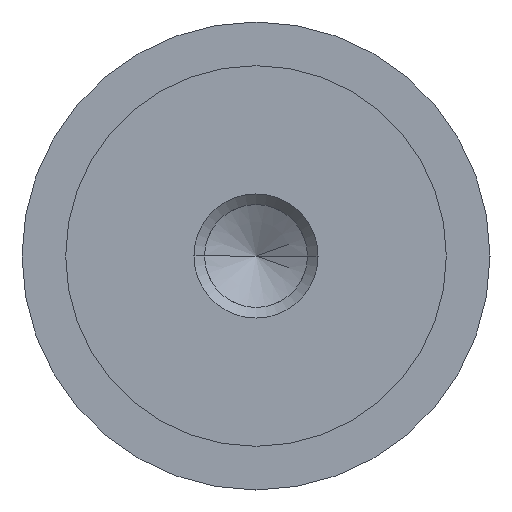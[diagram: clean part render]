
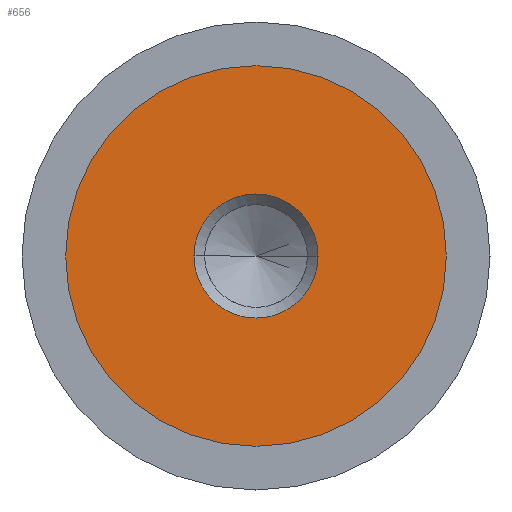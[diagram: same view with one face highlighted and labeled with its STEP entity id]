
A CAD part, left-side view. The second image highlights one B-rep face of the part: STEP entity #656.
In plain terms, the highlighted planar face has unit normal (-1, 0, 0).
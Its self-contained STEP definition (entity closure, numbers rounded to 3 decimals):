
#11 = DIRECTION ( 'NONE',  ( -1., 0., 0. ) ) ;
#87 = EDGE_CURVE ( 'NONE', #313, #139, #726, .T. ) ;
#91 = DIRECTION ( 'NONE',  ( 0., 0., -1. ) ) ;
#122 = DIRECTION ( 'NONE',  ( 0., 0., -1. ) ) ;
#127 = EDGE_LOOP ( 'NONE', ( #769, #382 ) ) ;
#130 = VERTEX_POINT ( 'NONE', #479 ) ;
#139 = VERTEX_POINT ( 'NONE', #592 ) ;
#149 = AXIS2_PLACEMENT_3D ( 'NONE', #343, #688, #750 ) ;
#179 = EDGE_LOOP ( 'NONE', ( #757, #554 ) ) ;
#188 = AXIS2_PLACEMENT_3D ( 'NONE', #559, #11, #325 ) ;
#260 = EDGE_CURVE ( 'NONE', #130, #333, #598, .T. ) ;
#297 = EDGE_CURVE ( 'NONE', #139, #313, #607, .T. ) ;
#313 = VERTEX_POINT ( 'NONE', #389 ) ;
#325 = DIRECTION ( 'NONE',  ( 0., 0., 1. ) ) ;
#333 = VERTEX_POINT ( 'NONE', #698 ) ;
#343 = CARTESIAN_POINT ( 'NONE',  ( -7.49, 6.1, 0. ) ) ;
#375 = CARTESIAN_POINT ( 'NONE',  ( -7.49, 0., 0. ) ) ;
#382 = ORIENTED_EDGE ( 'NONE', *, *, #87, .T. ) ;
#389 = CARTESIAN_POINT ( 'NONE',  ( -7.49, 1.99, 0. ) ) ;
#395 = AXIS2_PLACEMENT_3D ( 'NONE', #404, #696, #91 ) ;
#397 = CIRCLE ( 'NONE', #188, 6.1 ) ;
#404 = CARTESIAN_POINT ( 'NONE',  ( -7.49, 0., 0. ) ) ;
#433 = CARTESIAN_POINT ( 'NONE',  ( -7.49, 0., 0. ) ) ;
#452 = PLANE ( 'NONE',  #149 ) ;
#463 = FACE_OUTER_BOUND ( 'NONE', #179, .T. ) ;
#479 = CARTESIAN_POINT ( 'NONE',  ( -7.49, 0., -6.1 ) ) ;
#482 = AXIS2_PLACEMENT_3D ( 'NONE', #375, #657, #653 ) ;
#554 = ORIENTED_EDGE ( 'NONE', *, *, #260, .T. ) ;
#559 = CARTESIAN_POINT ( 'NONE',  ( -7.49, 0., 0. ) ) ;
#592 = CARTESIAN_POINT ( 'NONE',  ( -7.49, -1.99, 0. ) ) ;
#598 = CIRCLE ( 'NONE', #482, 6.1 ) ;
#607 = CIRCLE ( 'NONE', #659, 1.99 ) ;
#616 = EDGE_CURVE ( 'NONE', #333, #130, #397, .T. ) ;
#653 = DIRECTION ( 'NONE',  ( 0., 0., 1. ) ) ;
#656 = ADVANCED_FACE ( 'NONE', ( #755, #463 ), #452, .F. ) ;
#657 = DIRECTION ( 'NONE',  ( -1., 0., 0. ) ) ;
#659 = AXIS2_PLACEMENT_3D ( 'NONE', #433, #664, #122 ) ;
#664 = DIRECTION ( 'NONE',  ( 1., 0., 0. ) ) ;
#688 = DIRECTION ( 'NONE',  ( 1., 0., 0. ) ) ;
#696 = DIRECTION ( 'NONE',  ( 1., 0., 0. ) ) ;
#698 = CARTESIAN_POINT ( 'NONE',  ( -7.49, 0., 6.1 ) ) ;
#726 = CIRCLE ( 'NONE', #395, 1.99 ) ;
#750 = DIRECTION ( 'NONE',  ( 0., 0., -1. ) ) ;
#755 = FACE_BOUND ( 'NONE', #127, .T. ) ;
#757 = ORIENTED_EDGE ( 'NONE', *, *, #616, .T. ) ;
#769 = ORIENTED_EDGE ( 'NONE', *, *, #297, .T. ) ;
